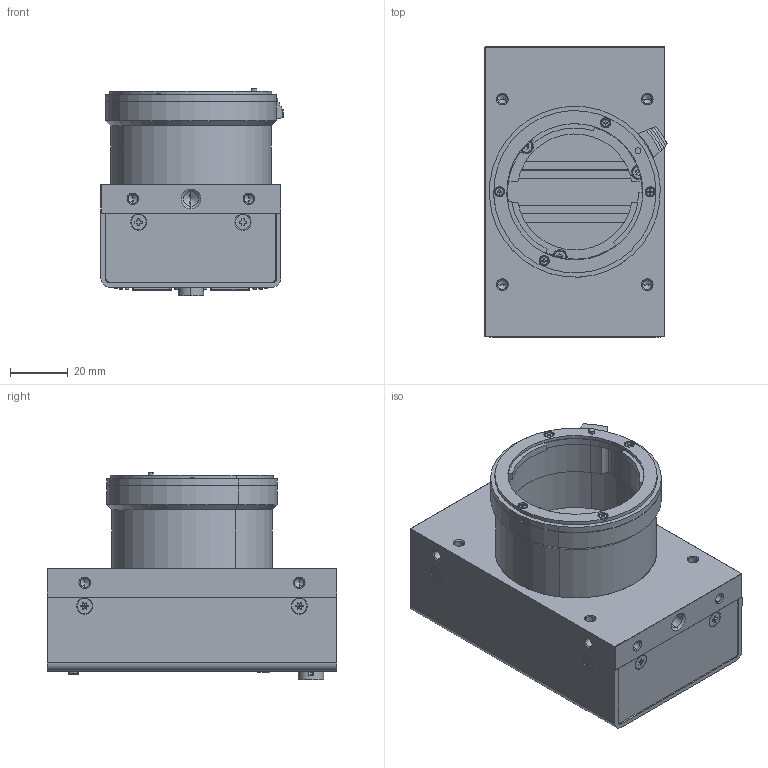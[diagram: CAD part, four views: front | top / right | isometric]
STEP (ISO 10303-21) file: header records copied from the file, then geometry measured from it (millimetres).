
FILE_DESCRIPTION (( 'STEP AP203' ), '1' );
FILE_NAME ('XCM4085TLCT6_AP203.STEP', '2017-06-20T10:05:08', ( '' ), ( '' ), 'SwSTEP 2.0', 'SolidWorks 2016', '' );
FILE_SCHEMA (( 'CONFIG_CONTROL_DESIGN' ));
Length unit declared in the file: millimetre
Products named in the file (18): Fマウント; 側面パネル; M2.6皿ネジ特殊; M2.6皿ネジ十字; CSPPNZP-ST-M3-5-3; アトメルマウント鏡筒6K; HR10-7R-6P(74); indicator; セットネジM3-5; CSPPNZP-ST-M3-5-1; M2.6-5CAP; USB_miniB; XCM4085TLCT6_AP203; CSPPNZP-ST-M3-5-2; フロントパネル; CameraLink_Mini; 精密ネジM2; 背面カバー
Assembly tree (31 placements, depth 3):
  XCM4085TLCT6_AP203
    フロントパネル
    背面カバー
    側面パネル  x2
    アトメルマウント鏡筒6K
    M2.6-5CAP  x3
    Fマウント
    精密ネジM2  x4
    M2.6皿ネジ特殊  x4
    M2.6皿ネジ十字  x4
    HR10-7R-6P(74)
    indicator
    セットネジM3-5  x2
      CSPPNZP-ST-M3-5-1
      CSPPNZP-ST-M3-5-2
      CSPPNZP-ST-M3-5-3
    USB_miniB
    CameraLink_Mini  x2
Bounding box: 62.8 x 100 x 71.64 mm (x, y, z)
Volume: 135509.6 mm3; surface area: 75395.3 mm2
Topology: 50 solids, 50 shells, 2102 faces, 5463 edges, 3479 vertices
Faces by surface type: plane 1108, cylinder 659, cone 242, bspline 47, torus 44, sphere 2
Entity records: 48987 total; most frequent: CARTESIAN_POINT 10088, ORIENTED_EDGE 7760, DIRECTION 7577, EDGE_CURVE 3880, AXIS2_PLACEMENT_3D 2603, VERTEX_POINT 2488, VECTOR 2371, LINE 2371
